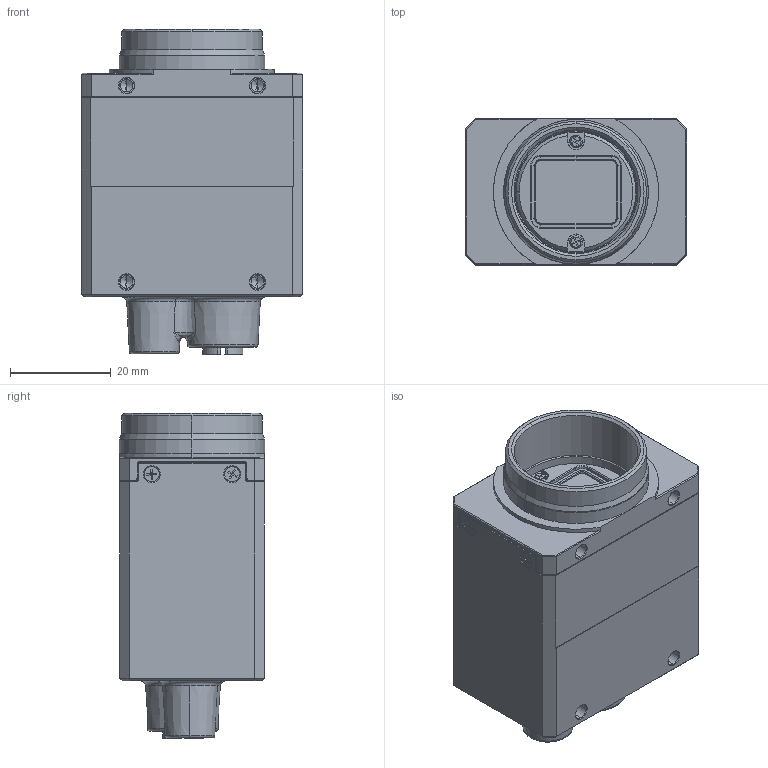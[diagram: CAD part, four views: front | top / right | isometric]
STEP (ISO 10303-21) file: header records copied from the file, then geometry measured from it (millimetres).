
FILE_DESCRIPTION (( 'STEP AP203' ), '1' );
FILE_NAME ('492-496-C_SW.STEP', '2025-03-10T16:02:54', ( '' ), ( '' ), 'SwSTEP 2.0', 'SolidWorks 2021', '' );
FILE_SCHEMA (( 'CONFIG_CONTROL_DESIGN' ));
Length unit declared in the file: millimetre
Products named in the file (1): 492-496-C_SW
Bounding box: 44 x 29 x 64.63 mm (x, y, z)
Volume: 57881.1 mm3; surface area: 12881.7 mm2
Topology: 3 solids, 9 shells, 759 faces, 1884 edges, 1180 vertices
Faces by surface type: plane 336, cylinder 188, cone 121, bspline 84, torus 30
Entity records: 25279 total; most frequent: CARTESIAN_POINT 7524, ORIENTED_EDGE 3728, DIRECTION 3670, EDGE_CURVE 1864, AXIS2_PLACEMENT_3D 1336, VERTEX_POINT 1180, VECTOR 998, LINE 998
